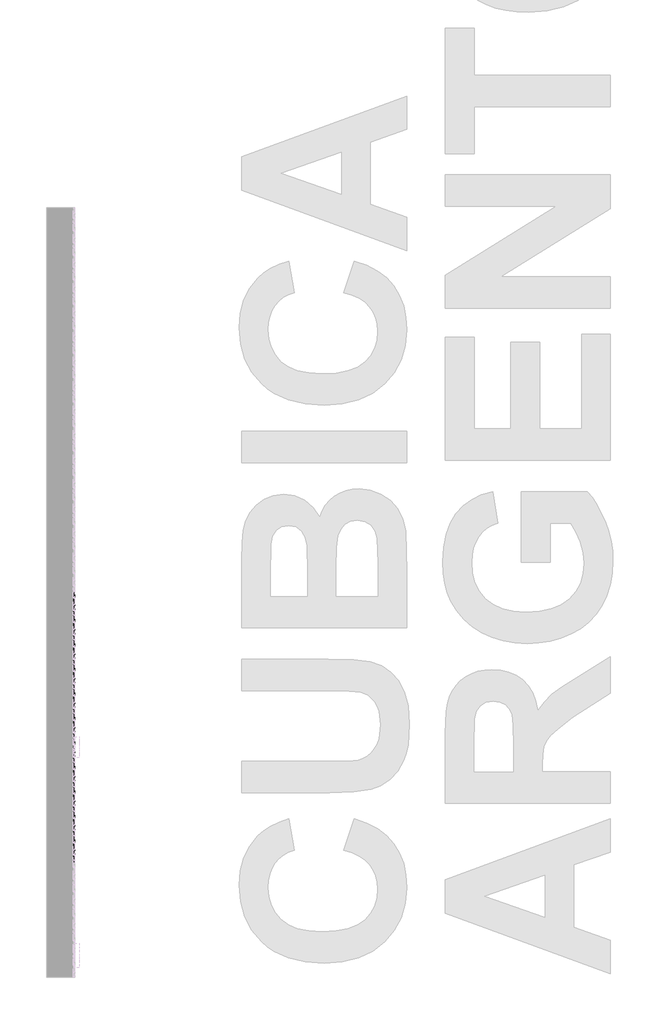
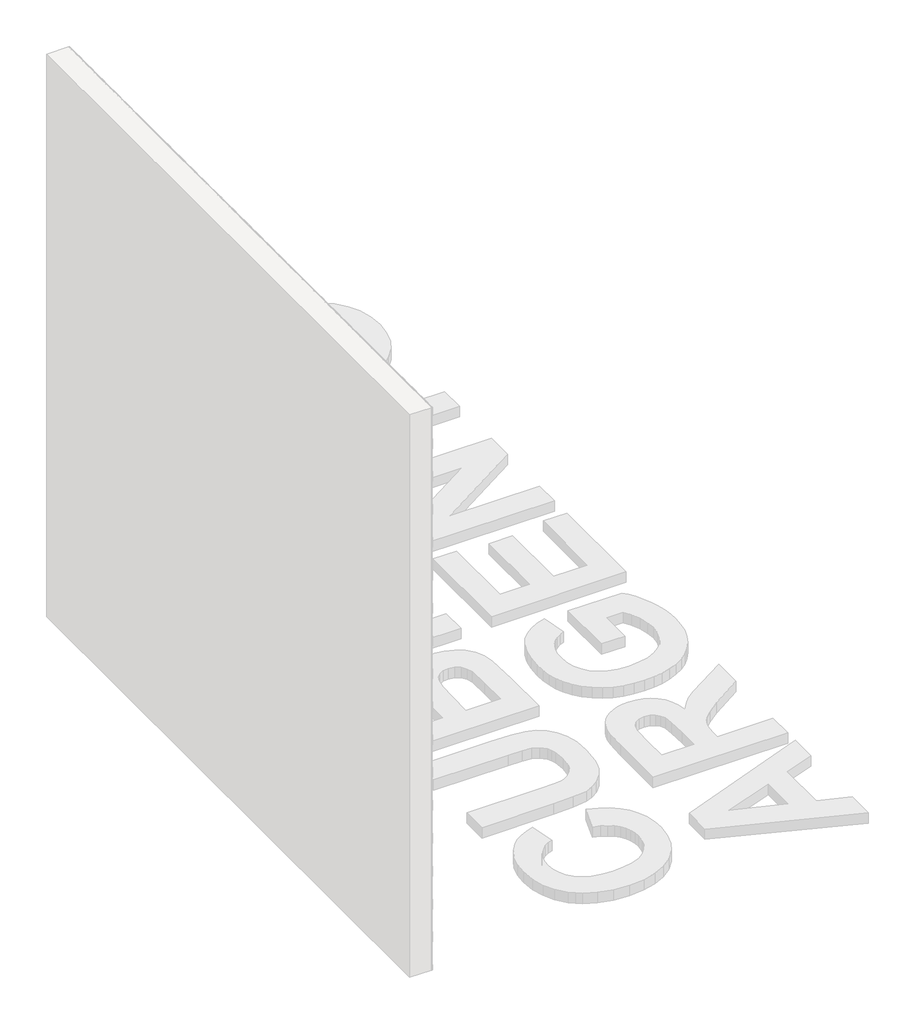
# One storey, part 8 of 121: 145 proxies.
"""IFC4 building model written with IfcOpenShell, lengths in millimetres."""

from ifc_helpers import new_model, si_unit, origin, place, context, project, spatial, transform, mapped, element, save
from components import generic_models_b2b2c5c1, generic_models_9bf73f6f, generic_models_5d175859

model = new_model("IFC4")

# Units and contexts
model_context = context("Model", 3, world=origin())
ifc_project = project(units=[si_unit("LENGTHUNIT", "METRE", prefix="MILLI")], contexts=[model_context])

# Site, building, storey
site = spatial("IfcSite", under=ifc_project)
building = spatial("IfcBuilding", under=site)
storey = spatial("IfcBuildingStorey", under=building, Name="PORTOBELLO - SHOWROOM", Elevation=0.0)

# Proxies
placement = place(None, origin())
generic_models_shape = generic_models_b2b2c5c1(model_context)
element("IfcBuildingElementProxy", 1, Name="PBSHOP - CUBICA ARGENTO 4,8X8,3 : CUBICA ARGENTO - POSIÇÃO 01", ObjectType="PBSHOP - CUBICA ARGENTO 4,8X8,3 : CUBICA ARGENTO - POSIÇÃO 01", at=placement, inside=storey, context=model_context, shape_type="MappedRepresentation", body=[
    mapped(generic_models_shape, transform((150369.5341846, -5858.416639, 1144.507104), x_axis=(0.0, 1.0, 0.0), y_axis=(0.0, 0.0, 1.0), z_axis=(1.0, 0.0, 0.0))),
])
element("IfcBuildingElementProxy", 2, Name="PBSHOP - CUBICA ARGENTO 4,8X8,3 : CUBICA ARGENTO - POSIÇÃO 01", ObjectType="PBSHOP - CUBICA ARGENTO 4,8X8,3 : CUBICA ARGENTO - POSIÇÃO 01", at=placement, inside=storey, context=model_context, shape_type="MappedRepresentation", body=[
    mapped(generic_models_shape, transform((150369.5341846, -5767.5773697, 1144.507104), x_axis=(0.0, 1.0, 0.0), y_axis=(0.0, 0.0, 1.0), z_axis=(1.0, 0.0, 0.0))),
])
element("IfcBuildingElementProxy", 3, Name="PBSHOP - CUBICA ARGENTO 4,8X8,3 : CUBICA ARGENTO - POSIÇÃO 01", ObjectType="PBSHOP - CUBICA ARGENTO 4,8X8,3 : CUBICA ARGENTO - POSIÇÃO 01", at=placement, inside=storey, context=model_context, shape_type="MappedRepresentation", body=[
    mapped(generic_models_shape, transform((150369.5341846, -5676.7381005, 1144.507104), x_axis=(0.0, 1.0, 0.0), y_axis=(0.0, 0.0, 1.0), z_axis=(1.0, 0.0, 0.0))),
])
element("IfcBuildingElementProxy", 4, Name="PBSHOP - CUBICA ARGENTO 4,8X8,3 : CUBICA ARGENTO - POSIÇÃO 01", ObjectType="PBSHOP - CUBICA ARGENTO 4,8X8,3 : CUBICA ARGENTO - POSIÇÃO 01", at=placement, inside=storey, context=model_context, shape_type="MappedRepresentation", body=[
    mapped(generic_models_shape, transform((150369.5341846, -5585.8988312, 1144.507104), x_axis=(0.0, 1.0, 0.0), y_axis=(0.0, 0.0, 1.0), z_axis=(1.0, 0.0, 0.0))),
])
element("IfcBuildingElementProxy", 5, Name="PBSHOP - CUBICA ARGENTO 4,8X8,3 : CUBICA ARGENTO - POSIÇÃO 01", ObjectType="PBSHOP - CUBICA ARGENTO 4,8X8,3 : CUBICA ARGENTO - POSIÇÃO 01", at=placement, inside=storey, context=model_context, shape_type="MappedRepresentation", body=[
    mapped(generic_models_shape, transform((150369.5341846, -5495.059562, 1144.507104), x_axis=(0.0, 1.0, 0.0), y_axis=(0.0, 0.0, 1.0), z_axis=(1.0, 0.0, 0.0))),
])
element("IfcBuildingElementProxy", 6, Name="PBSHOP - CUBICA ARGENTO 4,8X8,3 : CUBICA ARGENTO - POSIÇÃO 01", ObjectType="PBSHOP - CUBICA ARGENTO 4,8X8,3 : CUBICA ARGENTO - POSIÇÃO 01", at=placement, inside=storey, context=model_context, shape_type="MappedRepresentation", body=[
    mapped(generic_models_shape, transform((150369.5341846, -5404.2202927, 1144.507104), x_axis=(0.0, 1.0, 0.0), y_axis=(0.0, 0.0, 1.0), z_axis=(1.0, 0.0, 0.0))),
])
element("IfcBuildingElementProxy", 7, Name="PBSHOP - CUBICA ARGENTO 4,8X8,3 : CUBICA ARGENTO - POSIÇÃO 01", ObjectType="PBSHOP - CUBICA ARGENTO 4,8X8,3 : CUBICA ARGENTO - POSIÇÃO 01", at=placement, inside=storey, context=model_context, shape_type="MappedRepresentation", body=[
    mapped(generic_models_shape, transform((150369.5341846, -5313.3810235, 1144.507104), x_axis=(0.0, 1.0, 0.0), y_axis=(0.0, 0.0, 1.0), z_axis=(1.0, 0.0, 0.0))),
])
element("IfcBuildingElementProxy", 8, Name="PBSHOP - CUBICA ARGENTO 4,8X8,3 : CUBICA ARGENTO - POSIÇÃO 01", ObjectType="PBSHOP - CUBICA ARGENTO 4,8X8,3 : CUBICA ARGENTO - POSIÇÃO 01", at=placement, inside=storey, context=model_context, shape_type="MappedRepresentation", body=[
    mapped(generic_models_shape, transform((150369.5341846, -5222.5417543, 1144.507104), x_axis=(0.0, 1.0, 0.0), y_axis=(0.0, 0.0, 1.0), z_axis=(1.0, 0.0, 0.0))),
])
element("IfcBuildingElementProxy", 9, Name="PBSHOP - CUBICA ARGENTO 4,8X8,3 : CUBICA ARGENTO - POSIÇÃO 01", ObjectType="PBSHOP - CUBICA ARGENTO 4,8X8,3 : CUBICA ARGENTO - POSIÇÃO 01", at=placement, inside=storey, context=model_context, shape_type="MappedRepresentation", body=[
    mapped(generic_models_shape, transform((150369.5341846, -5131.702485, 1144.507104), x_axis=(0.0, 1.0, 0.0), y_axis=(0.0, 0.0, 1.0), z_axis=(1.0, 0.0, 0.0))),
])
element("IfcBuildingElementProxy", 10, Name="PBSHOP - CUBICA ARGENTO 4,8X8,3 : CUBICA ARGENTO - POSIÇÃO 01", ObjectType="PBSHOP - CUBICA ARGENTO 4,8X8,3 : CUBICA ARGENTO - POSIÇÃO 01", at=placement, inside=storey, context=model_context, shape_type="MappedRepresentation", body=[
    mapped(generic_models_shape, transform((150369.5341846, -5040.8632158, 1144.507104), x_axis=(0.0, 1.0, 0.0), y_axis=(0.0, 0.0, 1.0), z_axis=(1.0, 0.0, 0.0))),
])
element("IfcBuildingElementProxy", 11, Name="PBSHOP - CUBICA ARGENTO 4,8X8,3 : CUBICA ARGENTO - POSIÇÃO 01", ObjectType="PBSHOP - CUBICA ARGENTO 4,8X8,3 : CUBICA ARGENTO - POSIÇÃO 01", at=placement, inside=storey, context=model_context, shape_type="MappedRepresentation", body=[
    mapped(generic_models_shape, transform((150369.5341846, -5994.6755428, 1223.4417424), x_axis=(0.0, 1.0, 0.0), y_axis=(0.0, 0.0, 1.0), z_axis=(1.0, 0.0, 0.0))),
])
element("IfcBuildingElementProxy", 12, Name="PBSHOP - CUBICA ARGENTO 4,8X8,3 : CUBICA ARGENTO - POSIÇÃO 01", ObjectType="PBSHOP - CUBICA ARGENTO 4,8X8,3 : CUBICA ARGENTO - POSIÇÃO 01", at=placement, inside=storey, context=model_context, shape_type="MappedRepresentation", body=[
    mapped(generic_models_shape, transform((150369.5341846, -5903.8362736, 1223.4417424), x_axis=(0.0, 1.0, 0.0), y_axis=(0.0, 0.0, 1.0), z_axis=(1.0, 0.0, 0.0))),
])
element("IfcBuildingElementProxy", 13, Name="PBSHOP - CUBICA ARGENTO 4,8X8,3 : CUBICA ARGENTO - POSIÇÃO 01", ObjectType="PBSHOP - CUBICA ARGENTO 4,8X8,3 : CUBICA ARGENTO - POSIÇÃO 01", at=placement, inside=storey, context=model_context, shape_type="MappedRepresentation", body=[
    mapped(generic_models_shape, transform((150369.5341846, -5812.9970043, 1223.4417424), x_axis=(0.0, 1.0, 0.0), y_axis=(0.0, 0.0, 1.0), z_axis=(1.0, 0.0, 0.0))),
])
element("IfcBuildingElementProxy", 14, Name="PBSHOP - CUBICA ARGENTO 4,8X8,3 : CUBICA ARGENTO - POSIÇÃO 01", ObjectType="PBSHOP - CUBICA ARGENTO 4,8X8,3 : CUBICA ARGENTO - POSIÇÃO 01", at=placement, inside=storey, context=model_context, shape_type="MappedRepresentation", body=[
    mapped(generic_models_shape, transform((150369.5341846, -5722.1577351, 1223.4417424), x_axis=(0.0, 1.0, 0.0), y_axis=(0.0, 0.0, 1.0), z_axis=(1.0, 0.0, 0.0))),
])
element("IfcBuildingElementProxy", 15, Name="PBSHOP - CUBICA ARGENTO 4,8X8,3 : CUBICA ARGENTO - POSIÇÃO 01", ObjectType="PBSHOP - CUBICA ARGENTO 4,8X8,3 : CUBICA ARGENTO - POSIÇÃO 01", at=placement, inside=storey, context=model_context, shape_type="MappedRepresentation", body=[
    mapped(generic_models_shape, transform((150369.5341846, -5631.3184659, 1223.4417424), x_axis=(0.0, 1.0, 0.0), y_axis=(0.0, 0.0, 1.0), z_axis=(1.0, 0.0, 0.0))),
])
element("IfcBuildingElementProxy", 16, Name="PBSHOP - CUBICA ARGENTO 4,8X8,3 : CUBICA ARGENTO - POSIÇÃO 01", ObjectType="PBSHOP - CUBICA ARGENTO 4,8X8,3 : CUBICA ARGENTO - POSIÇÃO 01", at=placement, inside=storey, context=model_context, shape_type="MappedRepresentation", body=[
    mapped(generic_models_shape, transform((150369.5341846, -5540.4791966, 1223.4417424), x_axis=(0.0, 1.0, 0.0), y_axis=(0.0, 0.0, 1.0), z_axis=(1.0, 0.0, 0.0))),
])
element("IfcBuildingElementProxy", 17, Name="PBSHOP - CUBICA ARGENTO 4,8X8,3 : CUBICA ARGENTO - POSIÇÃO 01", ObjectType="PBSHOP - CUBICA ARGENTO 4,8X8,3 : CUBICA ARGENTO - POSIÇÃO 01", at=placement, inside=storey, context=model_context, shape_type="MappedRepresentation", body=[
    mapped(generic_models_shape, transform((150369.5341846, -5449.6399274, 1223.4417424), x_axis=(0.0, 1.0, 0.0), y_axis=(0.0, 0.0, 1.0), z_axis=(1.0, 0.0, 0.0))),
])
element("IfcBuildingElementProxy", 18, Name="PBSHOP - CUBICA ARGENTO 4,8X8,3 : CUBICA ARGENTO - POSIÇÃO 01", ObjectType="PBSHOP - CUBICA ARGENTO 4,8X8,3 : CUBICA ARGENTO - POSIÇÃO 01", at=placement, inside=storey, context=model_context, shape_type="MappedRepresentation", body=[
    mapped(generic_models_shape, transform((150369.5341846, -5358.8006581, 1223.4417424), x_axis=(0.0, 1.0, 0.0), y_axis=(0.0, 0.0, 1.0), z_axis=(1.0, 0.0, 0.0))),
])
element("IfcBuildingElementProxy", 19, Name="PBSHOP - CUBICA ARGENTO 4,8X8,3 : CUBICA ARGENTO - POSIÇÃO 01", ObjectType="PBSHOP - CUBICA ARGENTO 4,8X8,3 : CUBICA ARGENTO - POSIÇÃO 01", at=placement, inside=storey, context=model_context, shape_type="MappedRepresentation", body=[
    mapped(generic_models_shape, transform((150369.5341846, -5267.9613889, 1223.4417424), x_axis=(0.0, 1.0, 0.0), y_axis=(0.0, 0.0, 1.0), z_axis=(1.0, 0.0, 0.0))),
])
element("IfcBuildingElementProxy", 20, Name="PBSHOP - CUBICA ARGENTO 4,8X8,3 : CUBICA ARGENTO - POSIÇÃO 01", ObjectType="PBSHOP - CUBICA ARGENTO 4,8X8,3 : CUBICA ARGENTO - POSIÇÃO 01", at=placement, inside=storey, context=model_context, shape_type="MappedRepresentation", body=[
    mapped(generic_models_shape, transform((150369.5341846, -5177.1221196, 1223.4417424), x_axis=(0.0, 1.0, 0.0), y_axis=(0.0, 0.0, 1.0), z_axis=(1.0, 0.0, 0.0))),
])
element("IfcBuildingElementProxy", 21, Name="PBSHOP - CUBICA ARGENTO 4,8X8,3 : CUBICA ARGENTO - POSIÇÃO 01", ObjectType="PBSHOP - CUBICA ARGENTO 4,8X8,3 : CUBICA ARGENTO - POSIÇÃO 01", at=placement, inside=storey, context=model_context, shape_type="MappedRepresentation", body=[
    mapped(generic_models_shape, transform((150369.5341846, -5086.2828504, 1223.4417424), x_axis=(0.0, 1.0, 0.0), y_axis=(0.0, 0.0, 1.0), z_axis=(1.0, 0.0, 0.0))),
])
element("IfcBuildingElementProxy", 22, Name="PBSHOP - CUBICA ARGENTO 4,8X8,3 : CUBICA ARGENTO - POSIÇÃO 01", ObjectType="PBSHOP - CUBICA ARGENTO 4,8X8,3 : CUBICA ARGENTO - POSIÇÃO 01", at=placement, inside=storey, context=model_context, shape_type="MappedRepresentation", body=[
    mapped(generic_models_shape, transform((150369.5341846, -5949.2559082, 1302.3763808), x_axis=(0.0, 1.0, 0.0), y_axis=(0.0, 0.0, 1.0), z_axis=(1.0, 0.0, 0.0))),
])
element("IfcBuildingElementProxy", 23, Name="PBSHOP - CUBICA ARGENTO 4,8X8,3 : CUBICA ARGENTO - POSIÇÃO 01", ObjectType="PBSHOP - CUBICA ARGENTO 4,8X8,3 : CUBICA ARGENTO - POSIÇÃO 01", at=placement, inside=storey, context=model_context, shape_type="MappedRepresentation", body=[
    mapped(generic_models_shape, transform((150369.5341846, -5858.416639, 1302.3763808), x_axis=(0.0, 1.0, 0.0), y_axis=(0.0, 0.0, 1.0), z_axis=(1.0, 0.0, 0.0))),
])
element("IfcBuildingElementProxy", 24, Name="PBSHOP - CUBICA ARGENTO 4,8X8,3 : CUBICA ARGENTO - POSIÇÃO 01", ObjectType="PBSHOP - CUBICA ARGENTO 4,8X8,3 : CUBICA ARGENTO - POSIÇÃO 01", at=placement, inside=storey, context=model_context, shape_type="MappedRepresentation", body=[
    mapped(generic_models_shape, transform((150369.5341846, -5767.5773697, 1302.3763808), x_axis=(0.0, 1.0, 0.0), y_axis=(0.0, 0.0, 1.0), z_axis=(1.0, 0.0, 0.0))),
])
element("IfcBuildingElementProxy", 25, Name="PBSHOP - CUBICA ARGENTO 4,8X8,3 : CUBICA ARGENTO - POSIÇÃO 01", ObjectType="PBSHOP - CUBICA ARGENTO 4,8X8,3 : CUBICA ARGENTO - POSIÇÃO 01", at=placement, inside=storey, context=model_context, shape_type="MappedRepresentation", body=[
    mapped(generic_models_shape, transform((150369.5341846, -5676.7381005, 1302.3763808), x_axis=(0.0, 1.0, 0.0), y_axis=(0.0, 0.0, 1.0), z_axis=(1.0, 0.0, 0.0))),
])
element("IfcBuildingElementProxy", 26, Name="PBSHOP - CUBICA ARGENTO 4,8X8,3 : CUBICA ARGENTO - POSIÇÃO 01", ObjectType="PBSHOP - CUBICA ARGENTO 4,8X8,3 : CUBICA ARGENTO - POSIÇÃO 01", at=placement, inside=storey, context=model_context, shape_type="MappedRepresentation", body=[
    mapped(generic_models_shape, transform((150369.5341846, -5585.8988312, 1302.3763808), x_axis=(0.0, 1.0, 0.0), y_axis=(0.0, 0.0, 1.0), z_axis=(1.0, 0.0, 0.0))),
])
element("IfcBuildingElementProxy", 27, Name="PBSHOP - CUBICA ARGENTO 4,8X8,3 : CUBICA ARGENTO - POSIÇÃO 01", ObjectType="PBSHOP - CUBICA ARGENTO 4,8X8,3 : CUBICA ARGENTO - POSIÇÃO 01", at=placement, inside=storey, context=model_context, shape_type="MappedRepresentation", body=[
    mapped(generic_models_shape, transform((150369.5341846, -5495.059562, 1302.3763808), x_axis=(0.0, 1.0, 0.0), y_axis=(0.0, 0.0, 1.0), z_axis=(1.0, 0.0, 0.0))),
])
element("IfcBuildingElementProxy", 28, Name="PBSHOP - CUBICA ARGENTO 4,8X8,3 : CUBICA ARGENTO - POSIÇÃO 01", ObjectType="PBSHOP - CUBICA ARGENTO 4,8X8,3 : CUBICA ARGENTO - POSIÇÃO 01", at=placement, inside=storey, context=model_context, shape_type="MappedRepresentation", body=[
    mapped(generic_models_shape, transform((150369.5341846, -5404.2202927, 1302.3763808), x_axis=(0.0, 1.0, 0.0), y_axis=(0.0, 0.0, 1.0), z_axis=(1.0, 0.0, 0.0))),
])
element("IfcBuildingElementProxy", 29, Name="PBSHOP - CUBICA ARGENTO 4,8X8,3 : CUBICA ARGENTO - POSIÇÃO 01", ObjectType="PBSHOP - CUBICA ARGENTO 4,8X8,3 : CUBICA ARGENTO - POSIÇÃO 01", at=placement, inside=storey, context=model_context, shape_type="MappedRepresentation", body=[
    mapped(generic_models_shape, transform((150369.5341846, -5313.3810235, 1302.3763808), x_axis=(0.0, 1.0, 0.0), y_axis=(0.0, 0.0, 1.0), z_axis=(1.0, 0.0, 0.0))),
])
element("IfcBuildingElementProxy", 30, Name="PBSHOP - CUBICA ARGENTO 4,8X8,3 : CUBICA ARGENTO - POSIÇÃO 01", ObjectType="PBSHOP - CUBICA ARGENTO 4,8X8,3 : CUBICA ARGENTO - POSIÇÃO 01", at=placement, inside=storey, context=model_context, shape_type="MappedRepresentation", body=[
    mapped(generic_models_shape, transform((150369.5341846, -5222.5417543, 1302.3763808), x_axis=(0.0, 1.0, 0.0), y_axis=(0.0, 0.0, 1.0), z_axis=(1.0, 0.0, 0.0))),
])
element("IfcBuildingElementProxy", 31, Name="PBSHOP - CUBICA ARGENTO 4,8X8,3 : CUBICA ARGENTO - POSIÇÃO 01", ObjectType="PBSHOP - CUBICA ARGENTO 4,8X8,3 : CUBICA ARGENTO - POSIÇÃO 01", at=placement, inside=storey, context=model_context, shape_type="MappedRepresentation", body=[
    mapped(generic_models_shape, transform((150369.5341846, -5131.702485, 1302.3763808), x_axis=(0.0, 1.0, 0.0), y_axis=(0.0, 0.0, 1.0), z_axis=(1.0, 0.0, 0.0))),
])
element("IfcBuildingElementProxy", 32, Name="PBSHOP - CUBICA ARGENTO 4,8X8,3 : CUBICA ARGENTO - POSIÇÃO 01", ObjectType="PBSHOP - CUBICA ARGENTO 4,8X8,3 : CUBICA ARGENTO - POSIÇÃO 01", at=placement, inside=storey, context=model_context, shape_type="MappedRepresentation", body=[
    mapped(generic_models_shape, transform((150369.5341846, -5040.8632158, 1302.3763808), x_axis=(0.0, 1.0, 0.0), y_axis=(0.0, 0.0, 1.0), z_axis=(1.0, 0.0, 0.0))),
])
element("IfcBuildingElementProxy", 33, Name="PBSHOP - CUBICA ARGENTO 4,8X8,3 : CUBICA ARGENTO - POSIÇÃO 01", ObjectType="PBSHOP - CUBICA ARGENTO 4,8X8,3 : CUBICA ARGENTO - POSIÇÃO 01", at=placement, inside=storey, context=model_context, shape_type="MappedRepresentation", body=[
    mapped(generic_models_shape, transform((150369.5341846, -5994.6755428, 1381.3110192), x_axis=(0.0, 1.0, 0.0), y_axis=(0.0, 0.0, 1.0), z_axis=(1.0, 0.0, 0.0))),
])
element("IfcBuildingElementProxy", 34, Name="PBSHOP - CUBICA ARGENTO 4,8X8,3 : CUBICA ARGENTO - POSIÇÃO 01", ObjectType="PBSHOP - CUBICA ARGENTO 4,8X8,3 : CUBICA ARGENTO - POSIÇÃO 01", at=placement, inside=storey, context=model_context, shape_type="MappedRepresentation", body=[
    mapped(generic_models_shape, transform((150369.5341846, -5903.8362736, 1381.3110192), x_axis=(0.0, 1.0, 0.0), y_axis=(0.0, 0.0, 1.0), z_axis=(1.0, 0.0, 0.0))),
])
element("IfcBuildingElementProxy", 35, Name="PBSHOP - CUBICA ARGENTO 4,8X8,3 : CUBICA ARGENTO - POSIÇÃO 01", ObjectType="PBSHOP - CUBICA ARGENTO 4,8X8,3 : CUBICA ARGENTO - POSIÇÃO 01", at=placement, inside=storey, context=model_context, shape_type="MappedRepresentation", body=[
    mapped(generic_models_shape, transform((150369.5341846, -5812.9970043, 1381.3110192), x_axis=(0.0, 1.0, 0.0), y_axis=(0.0, 0.0, 1.0), z_axis=(1.0, 0.0, 0.0))),
])
element("IfcBuildingElementProxy", 36, Name="PBSHOP - CUBICA ARGENTO 4,8X8,3 : CUBICA ARGENTO - POSIÇÃO 01", ObjectType="PBSHOP - CUBICA ARGENTO 4,8X8,3 : CUBICA ARGENTO - POSIÇÃO 01", at=placement, inside=storey, context=model_context, shape_type="MappedRepresentation", body=[
    mapped(generic_models_shape, transform((150369.5341846, -5722.1577351, 1381.3110192), x_axis=(0.0, 1.0, 0.0), y_axis=(0.0, 0.0, 1.0), z_axis=(1.0, 0.0, 0.0))),
])
element("IfcBuildingElementProxy", 37, Name="PBSHOP - CUBICA ARGENTO 4,8X8,3 : CUBICA ARGENTO - POSIÇÃO 01", ObjectType="PBSHOP - CUBICA ARGENTO 4,8X8,3 : CUBICA ARGENTO - POSIÇÃO 01", at=placement, inside=storey, context=model_context, shape_type="MappedRepresentation", body=[
    mapped(generic_models_shape, transform((150369.5341846, -5631.3184659, 1381.3110192), x_axis=(0.0, 1.0, 0.0), y_axis=(0.0, 0.0, 1.0), z_axis=(1.0, 0.0, 0.0))),
])
element("IfcBuildingElementProxy", 38, Name="PBSHOP - CUBICA ARGENTO 4,8X8,3 : CUBICA ARGENTO - POSIÇÃO 01", ObjectType="PBSHOP - CUBICA ARGENTO 4,8X8,3 : CUBICA ARGENTO - POSIÇÃO 01", at=placement, inside=storey, context=model_context, shape_type="MappedRepresentation", body=[
    mapped(generic_models_shape, transform((150369.5341846, -5540.4791966, 1381.3110192), x_axis=(0.0, 1.0, 0.0), y_axis=(0.0, 0.0, 1.0), z_axis=(1.0, 0.0, 0.0))),
])
element("IfcBuildingElementProxy", 39, Name="PBSHOP - CUBICA ARGENTO 4,8X8,3 : CUBICA ARGENTO - POSIÇÃO 01", ObjectType="PBSHOP - CUBICA ARGENTO 4,8X8,3 : CUBICA ARGENTO - POSIÇÃO 01", at=placement, inside=storey, context=model_context, shape_type="MappedRepresentation", body=[
    mapped(generic_models_shape, transform((150369.5341846, -5449.6399274, 1381.3110192), x_axis=(0.0, 1.0, 0.0), y_axis=(0.0, 0.0, 1.0), z_axis=(1.0, 0.0, 0.0))),
])
element("IfcBuildingElementProxy", 40, Name="PBSHOP - CUBICA ARGENTO 4,8X8,3 : CUBICA ARGENTO - POSIÇÃO 01", ObjectType="PBSHOP - CUBICA ARGENTO 4,8X8,3 : CUBICA ARGENTO - POSIÇÃO 01", at=placement, inside=storey, context=model_context, shape_type="MappedRepresentation", body=[
    mapped(generic_models_shape, transform((150369.5341846, -5358.8006581, 1381.3110192), x_axis=(0.0, 1.0, 0.0), y_axis=(0.0, 0.0, 1.0), z_axis=(1.0, 0.0, 0.0))),
])
element("IfcBuildingElementProxy", 41, Name="PBSHOP - CUBICA ARGENTO 4,8X8,3 : CUBICA ARGENTO - POSIÇÃO 01", ObjectType="PBSHOP - CUBICA ARGENTO 4,8X8,3 : CUBICA ARGENTO - POSIÇÃO 01", at=placement, inside=storey, context=model_context, shape_type="MappedRepresentation", body=[
    mapped(generic_models_shape, transform((150369.5341846, -5267.9613889, 1381.3110192), x_axis=(0.0, 1.0, 0.0), y_axis=(0.0, 0.0, 1.0), z_axis=(1.0, 0.0, 0.0))),
])
element("IfcBuildingElementProxy", 42, Name="PBSHOP - CUBICA ARGENTO 4,8X8,3 : CUBICA ARGENTO - POSIÇÃO 01", ObjectType="PBSHOP - CUBICA ARGENTO 4,8X8,3 : CUBICA ARGENTO - POSIÇÃO 01", at=placement, inside=storey, context=model_context, shape_type="MappedRepresentation", body=[
    mapped(generic_models_shape, transform((150369.5341846, -5177.1221196, 1381.3110192), x_axis=(0.0, 1.0, 0.0), y_axis=(0.0, 0.0, 1.0), z_axis=(1.0, 0.0, 0.0))),
])
element("IfcBuildingElementProxy", 43, Name="PBSHOP - CUBICA ARGENTO 4,8X8,3 : CUBICA ARGENTO - POSIÇÃO 01", ObjectType="PBSHOP - CUBICA ARGENTO 4,8X8,3 : CUBICA ARGENTO - POSIÇÃO 01", at=placement, inside=storey, context=model_context, shape_type="MappedRepresentation", body=[
    mapped(generic_models_shape, transform((150369.5341846, -5086.2828504, 1381.3110192), x_axis=(0.0, 1.0, 0.0), y_axis=(0.0, 0.0, 1.0), z_axis=(1.0, 0.0, 0.0))),
])
element("IfcBuildingElementProxy", 44, Name="PBSHOP - CUBICA ARGENTO 4,8X8,3 : CUBICA ARGENTO - POSIÇÃO 01", ObjectType="PBSHOP - CUBICA ARGENTO 4,8X8,3 : CUBICA ARGENTO - POSIÇÃO 01", at=placement, inside=storey, context=model_context, shape_type="MappedRepresentation", body=[
    mapped(generic_models_shape, transform((150369.5341846, -5949.2559082, 1460.2456575), x_axis=(0.0, 1.0, 0.0), y_axis=(0.0, 0.0, 1.0), z_axis=(1.0, 0.0, 0.0))),
])
element("IfcBuildingElementProxy", 45, Name="PBSHOP - CUBICA ARGENTO 4,8X8,3 : CUBICA ARGENTO - POSIÇÃO 01", ObjectType="PBSHOP - CUBICA ARGENTO 4,8X8,3 : CUBICA ARGENTO - POSIÇÃO 01", at=placement, inside=storey, context=model_context, shape_type="MappedRepresentation", body=[
    mapped(generic_models_shape, transform((150369.5341846, -5858.416639, 1460.2456575), x_axis=(0.0, 1.0, 0.0), y_axis=(0.0, 0.0, 1.0), z_axis=(1.0, 0.0, 0.0))),
])
element("IfcBuildingElementProxy", 46, Name="PBSHOP - CUBICA ARGENTO 4,8X8,3 : CUBICA ARGENTO - POSIÇÃO 01", ObjectType="PBSHOP - CUBICA ARGENTO 4,8X8,3 : CUBICA ARGENTO - POSIÇÃO 01", at=placement, inside=storey, context=model_context, shape_type="MappedRepresentation", body=[
    mapped(generic_models_shape, transform((150369.5341846, -5767.5773697, 1460.2456575), x_axis=(0.0, 1.0, 0.0), y_axis=(0.0, 0.0, 1.0), z_axis=(1.0, 0.0, 0.0))),
])
element("IfcBuildingElementProxy", 47, Name="PBSHOP - CUBICA ARGENTO 4,8X8,3 : CUBICA ARGENTO - POSIÇÃO 01", ObjectType="PBSHOP - CUBICA ARGENTO 4,8X8,3 : CUBICA ARGENTO - POSIÇÃO 01", at=placement, inside=storey, context=model_context, shape_type="MappedRepresentation", body=[
    mapped(generic_models_shape, transform((150369.5341846, -5676.7381005, 1460.2456575), x_axis=(0.0, 1.0, 0.0), y_axis=(0.0, 0.0, 1.0), z_axis=(1.0, 0.0, 0.0))),
])
element("IfcBuildingElementProxy", 48, Name="PBSHOP - CUBICA ARGENTO 4,8X8,3 : CUBICA ARGENTO - POSIÇÃO 01", ObjectType="PBSHOP - CUBICA ARGENTO 4,8X8,3 : CUBICA ARGENTO - POSIÇÃO 01", at=placement, inside=storey, context=model_context, shape_type="MappedRepresentation", body=[
    mapped(generic_models_shape, transform((150369.5341846, -5585.8988312, 1460.2456575), x_axis=(0.0, 1.0, 0.0), y_axis=(0.0, 0.0, 1.0), z_axis=(1.0, 0.0, 0.0))),
])
element("IfcBuildingElementProxy", 49, Name="PBSHOP - CUBICA ARGENTO 4,8X8,3 : CUBICA ARGENTO - POSIÇÃO 01", ObjectType="PBSHOP - CUBICA ARGENTO 4,8X8,3 : CUBICA ARGENTO - POSIÇÃO 01", at=placement, inside=storey, context=model_context, shape_type="MappedRepresentation", body=[
    mapped(generic_models_shape, transform((150369.5341846, -5495.059562, 1460.2456575), x_axis=(0.0, 1.0, 0.0), y_axis=(0.0, 0.0, 1.0), z_axis=(1.0, 0.0, 0.0))),
])
element("IfcBuildingElementProxy", 50, Name="PBSHOP - CUBICA ARGENTO 4,8X8,3 : CUBICA ARGENTO - POSIÇÃO 01", ObjectType="PBSHOP - CUBICA ARGENTO 4,8X8,3 : CUBICA ARGENTO - POSIÇÃO 01", at=placement, inside=storey, context=model_context, shape_type="MappedRepresentation", body=[
    mapped(generic_models_shape, transform((150369.5341846, -5404.2202927, 1460.2456575), x_axis=(0.0, 1.0, 0.0), y_axis=(0.0, 0.0, 1.0), z_axis=(1.0, 0.0, 0.0))),
])
generic_models_2_shape = generic_models_9bf73f6f(model_context)
element("IfcBuildingElementProxy", 51, Name="PBSHOP - CUBICA ARGENTO 4,8X8,3 : CUBICA ARGENTO - POSIÇÃO 03", ObjectType="PBSHOP - CUBICA ARGENTO 4,8X8,3 : CUBICA ARGENTO - POSIÇÃO 03", at=placement, inside=storey, context=model_context, shape_type="MappedRepresentation", body=[
    mapped(generic_models_2_shape, transform((150369.5341846, -5971.9635664, 1104.9985744), x_axis=(0.0, 1.0, 0.0), y_axis=(0.0, 0.0, 1.0), z_axis=(1.0, 0.0, 0.0))),
])
element("IfcBuildingElementProxy", 52, Name="PBSHOP - CUBICA ARGENTO 4,8X8,3 : CUBICA ARGENTO - POSIÇÃO 03", ObjectType="PBSHOP - CUBICA ARGENTO 4,8X8,3 : CUBICA ARGENTO - POSIÇÃO 03", at=placement, inside=storey, context=model_context, shape_type="MappedRepresentation", body=[
    mapped(generic_models_2_shape, transform((150369.5341846, -5881.1242971, 1104.9985744), x_axis=(0.0, 1.0, 0.0), y_axis=(0.0, 0.0, 1.0), z_axis=(1.0, 0.0, 0.0))),
])
element("IfcBuildingElementProxy", 53, Name="PBSHOP - CUBICA ARGENTO 4,8X8,3 : CUBICA ARGENTO - POSIÇÃO 03", ObjectType="PBSHOP - CUBICA ARGENTO 4,8X8,3 : CUBICA ARGENTO - POSIÇÃO 03", at=placement, inside=storey, context=model_context, shape_type="MappedRepresentation", body=[
    mapped(generic_models_2_shape, transform((150369.5341846, -5790.2850279, 1104.9985744), x_axis=(0.0, 1.0, 0.0), y_axis=(0.0, 0.0, 1.0), z_axis=(1.0, 0.0, 0.0))),
])
element("IfcBuildingElementProxy", 54, Name="PBSHOP - CUBICA ARGENTO 4,8X8,3 : CUBICA ARGENTO - POSIÇÃO 03", ObjectType="PBSHOP - CUBICA ARGENTO 4,8X8,3 : CUBICA ARGENTO - POSIÇÃO 03", at=placement, inside=storey, context=model_context, shape_type="MappedRepresentation", body=[
    mapped(generic_models_2_shape, transform((150369.5341846, -5699.4457586, 1104.9985744), x_axis=(0.0, 1.0, 0.0), y_axis=(0.0, 0.0, 1.0), z_axis=(1.0, 0.0, 0.0))),
])
element("IfcBuildingElementProxy", 55, Name="PBSHOP - CUBICA ARGENTO 4,8X8,3 : CUBICA ARGENTO - POSIÇÃO 03", ObjectType="PBSHOP - CUBICA ARGENTO 4,8X8,3 : CUBICA ARGENTO - POSIÇÃO 03", at=placement, inside=storey, context=model_context, shape_type="MappedRepresentation", body=[
    mapped(generic_models_2_shape, transform((150369.5341846, -5608.6064894, 1104.9985744), x_axis=(0.0, 1.0, 0.0), y_axis=(0.0, 0.0, 1.0), z_axis=(1.0, 0.0, 0.0))),
])
element("IfcBuildingElementProxy", 56, Name="PBSHOP - CUBICA ARGENTO 4,8X8,3 : CUBICA ARGENTO - POSIÇÃO 03", ObjectType="PBSHOP - CUBICA ARGENTO 4,8X8,3 : CUBICA ARGENTO - POSIÇÃO 03", at=placement, inside=storey, context=model_context, shape_type="MappedRepresentation", body=[
    mapped(generic_models_2_shape, transform((150369.5341846, -5517.7672201, 1104.9985744), x_axis=(0.0, 1.0, 0.0), y_axis=(0.0, 0.0, 1.0), z_axis=(1.0, 0.0, 0.0))),
])
element("IfcBuildingElementProxy", 57, Name="PBSHOP - CUBICA ARGENTO 4,8X8,3 : CUBICA ARGENTO - POSIÇÃO 03", ObjectType="PBSHOP - CUBICA ARGENTO 4,8X8,3 : CUBICA ARGENTO - POSIÇÃO 03", at=placement, inside=storey, context=model_context, shape_type="MappedRepresentation", body=[
    mapped(generic_models_2_shape, transform((150369.5341846, -5426.9279509, 1104.9985744), x_axis=(0.0, 1.0, 0.0), y_axis=(0.0, 0.0, 1.0), z_axis=(1.0, 0.0, 0.0))),
])
element("IfcBuildingElementProxy", 58, Name="PBSHOP - CUBICA ARGENTO 4,8X8,3 : CUBICA ARGENTO - POSIÇÃO 03", ObjectType="PBSHOP - CUBICA ARGENTO 4,8X8,3 : CUBICA ARGENTO - POSIÇÃO 03", at=placement, inside=storey, context=model_context, shape_type="MappedRepresentation", body=[
    mapped(generic_models_2_shape, transform((150369.5341846, -5336.0886816, 1104.9985744), x_axis=(0.0, 1.0, 0.0), y_axis=(0.0, 0.0, 1.0), z_axis=(1.0, 0.0, 0.0))),
])
element("IfcBuildingElementProxy", 59, Name="PBSHOP - CUBICA ARGENTO 4,8X8,3 : CUBICA ARGENTO - POSIÇÃO 03", ObjectType="PBSHOP - CUBICA ARGENTO 4,8X8,3 : CUBICA ARGENTO - POSIÇÃO 03", at=placement, inside=storey, context=model_context, shape_type="MappedRepresentation", body=[
    mapped(generic_models_2_shape, transform((150369.5341846, -5245.2494124, 1104.9985744), x_axis=(0.0, 1.0, 0.0), y_axis=(0.0, 0.0, 1.0), z_axis=(1.0, 0.0, 0.0))),
])
element("IfcBuildingElementProxy", 60, Name="PBSHOP - CUBICA ARGENTO 4,8X8,3 : CUBICA ARGENTO - POSIÇÃO 03", ObjectType="PBSHOP - CUBICA ARGENTO 4,8X8,3 : CUBICA ARGENTO - POSIÇÃO 03", at=placement, inside=storey, context=model_context, shape_type="MappedRepresentation", body=[
    mapped(generic_models_2_shape, transform((150369.5341846, -5154.4101432, 1104.9985744), x_axis=(0.0, 1.0, 0.0), y_axis=(0.0, 0.0, 1.0), z_axis=(1.0, 0.0, 0.0))),
])
element("IfcBuildingElementProxy", 61, Name="PBSHOP - CUBICA ARGENTO 4,8X8,3 : CUBICA ARGENTO - POSIÇÃO 03", ObjectType="PBSHOP - CUBICA ARGENTO 4,8X8,3 : CUBICA ARGENTO - POSIÇÃO 03", at=placement, inside=storey, context=model_context, shape_type="MappedRepresentation", body=[
    mapped(generic_models_2_shape, transform((150369.5341846, -5063.5708739, 1104.9985744), x_axis=(0.0, 1.0, 0.0), y_axis=(0.0, 0.0, 1.0), z_axis=(1.0, 0.0, 0.0))),
])
element("IfcBuildingElementProxy", 62, Name="PBSHOP - CUBICA ARGENTO 4,8X8,3 : CUBICA ARGENTO - POSIÇÃO 03", ObjectType="PBSHOP - CUBICA ARGENTO 4,8X8,3 : CUBICA ARGENTO - POSIÇÃO 03", at=placement, inside=storey, context=model_context, shape_type="MappedRepresentation", body=[
    mapped(generic_models_2_shape, transform((150369.5341846, -5926.5439317, 1183.9332128), x_axis=(0.0, 1.0, 0.0), y_axis=(0.0, 0.0, 1.0), z_axis=(1.0, 0.0, 0.0))),
])
element("IfcBuildingElementProxy", 63, Name="PBSHOP - CUBICA ARGENTO 4,8X8,3 : CUBICA ARGENTO - POSIÇÃO 03", ObjectType="PBSHOP - CUBICA ARGENTO 4,8X8,3 : CUBICA ARGENTO - POSIÇÃO 03", at=placement, inside=storey, context=model_context, shape_type="MappedRepresentation", body=[
    mapped(generic_models_2_shape, transform((150369.5341846, -5835.7046625, 1183.9332128), x_axis=(0.0, 1.0, 0.0), y_axis=(0.0, 0.0, 1.0), z_axis=(1.0, 0.0, 0.0))),
])
element("IfcBuildingElementProxy", 64, Name="PBSHOP - CUBICA ARGENTO 4,8X8,3 : CUBICA ARGENTO - POSIÇÃO 03", ObjectType="PBSHOP - CUBICA ARGENTO 4,8X8,3 : CUBICA ARGENTO - POSIÇÃO 03", at=placement, inside=storey, context=model_context, shape_type="MappedRepresentation", body=[
    mapped(generic_models_2_shape, transform((150369.5341846, -5744.8653932, 1183.9332128), x_axis=(0.0, 1.0, 0.0), y_axis=(0.0, 0.0, 1.0), z_axis=(1.0, 0.0, 0.0))),
])
element("IfcBuildingElementProxy", 65, Name="PBSHOP - CUBICA ARGENTO 4,8X8,3 : CUBICA ARGENTO - POSIÇÃO 03", ObjectType="PBSHOP - CUBICA ARGENTO 4,8X8,3 : CUBICA ARGENTO - POSIÇÃO 03", at=placement, inside=storey, context=model_context, shape_type="MappedRepresentation", body=[
    mapped(generic_models_2_shape, transform((150369.5341846, -5654.026124, 1183.9332128), x_axis=(0.0, 1.0, 0.0), y_axis=(0.0, 0.0, 1.0), z_axis=(1.0, 0.0, 0.0))),
])
element("IfcBuildingElementProxy", 66, Name="PBSHOP - CUBICA ARGENTO 4,8X8,3 : CUBICA ARGENTO - POSIÇÃO 03", ObjectType="PBSHOP - CUBICA ARGENTO 4,8X8,3 : CUBICA ARGENTO - POSIÇÃO 03", at=placement, inside=storey, context=model_context, shape_type="MappedRepresentation", body=[
    mapped(generic_models_2_shape, transform((150369.5341846, -5563.1868548, 1183.9332128), x_axis=(0.0, 1.0, 0.0), y_axis=(0.0, 0.0, 1.0), z_axis=(1.0, 0.0, 0.0))),
])
element("IfcBuildingElementProxy", 67, Name="PBSHOP - CUBICA ARGENTO 4,8X8,3 : CUBICA ARGENTO - POSIÇÃO 03", ObjectType="PBSHOP - CUBICA ARGENTO 4,8X8,3 : CUBICA ARGENTO - POSIÇÃO 03", at=placement, inside=storey, context=model_context, shape_type="MappedRepresentation", body=[
    mapped(generic_models_2_shape, transform((150369.5341846, -5472.3475855, 1183.9332128), x_axis=(0.0, 1.0, 0.0), y_axis=(0.0, 0.0, 1.0), z_axis=(1.0, 0.0, 0.0))),
])
element("IfcBuildingElementProxy", 68, Name="PBSHOP - CUBICA ARGENTO 4,8X8,3 : CUBICA ARGENTO - POSIÇÃO 03", ObjectType="PBSHOP - CUBICA ARGENTO 4,8X8,3 : CUBICA ARGENTO - POSIÇÃO 03", at=placement, inside=storey, context=model_context, shape_type="MappedRepresentation", body=[
    mapped(generic_models_2_shape, transform((150369.5341846, -5381.5083163, 1183.9332128), x_axis=(0.0, 1.0, 0.0), y_axis=(0.0, 0.0, 1.0), z_axis=(1.0, 0.0, 0.0))),
])
element("IfcBuildingElementProxy", 69, Name="PBSHOP - CUBICA ARGENTO 4,8X8,3 : CUBICA ARGENTO - POSIÇÃO 03", ObjectType="PBSHOP - CUBICA ARGENTO 4,8X8,3 : CUBICA ARGENTO - POSIÇÃO 03", at=placement, inside=storey, context=model_context, shape_type="MappedRepresentation", body=[
    mapped(generic_models_2_shape, transform((150369.5341846, -5290.669047, 1183.9332128), x_axis=(0.0, 1.0, 0.0), y_axis=(0.0, 0.0, 1.0), z_axis=(1.0, 0.0, 0.0))),
])
element("IfcBuildingElementProxy", 70, Name="PBSHOP - CUBICA ARGENTO 4,8X8,3 : CUBICA ARGENTO - POSIÇÃO 03", ObjectType="PBSHOP - CUBICA ARGENTO 4,8X8,3 : CUBICA ARGENTO - POSIÇÃO 03", at=placement, inside=storey, context=model_context, shape_type="MappedRepresentation", body=[
    mapped(generic_models_2_shape, transform((150369.5341846, -5199.8297778, 1183.9332128), x_axis=(0.0, 1.0, 0.0), y_axis=(0.0, 0.0, 1.0), z_axis=(1.0, 0.0, 0.0))),
])
element("IfcBuildingElementProxy", 71, Name="PBSHOP - CUBICA ARGENTO 4,8X8,3 : CUBICA ARGENTO - POSIÇÃO 03", ObjectType="PBSHOP - CUBICA ARGENTO 4,8X8,3 : CUBICA ARGENTO - POSIÇÃO 03", at=placement, inside=storey, context=model_context, shape_type="MappedRepresentation", body=[
    mapped(generic_models_2_shape, transform((150369.5341846, -5108.9905085, 1183.9332128), x_axis=(0.0, 1.0, 0.0), y_axis=(0.0, 0.0, 1.0), z_axis=(1.0, 0.0, 0.0))),
])
element("IfcBuildingElementProxy", 72, Name="PBSHOP - CUBICA ARGENTO 4,8X8,3 : CUBICA ARGENTO - POSIÇÃO 03", ObjectType="PBSHOP - CUBICA ARGENTO 4,8X8,3 : CUBICA ARGENTO - POSIÇÃO 03", at=placement, inside=storey, context=model_context, shape_type="MappedRepresentation", body=[
    mapped(generic_models_2_shape, transform((150369.5341846, -5018.1512393, 1183.9332128), x_axis=(0.0, 1.0, 0.0), y_axis=(0.0, 0.0, 1.0), z_axis=(1.0, 0.0, 0.0))),
])
element("IfcBuildingElementProxy", 73, Name="PBSHOP - CUBICA ARGENTO 4,8X8,3 : CUBICA ARGENTO - POSIÇÃO 03", ObjectType="PBSHOP - CUBICA ARGENTO 4,8X8,3 : CUBICA ARGENTO - POSIÇÃO 03", at=placement, inside=storey, context=model_context, shape_type="MappedRepresentation", body=[
    mapped(generic_models_2_shape, transform((150369.5341846, -5971.9635664, 1262.8678512), x_axis=(0.0, 1.0, 0.0), y_axis=(0.0, 0.0, 1.0), z_axis=(1.0, 0.0, 0.0))),
])
element("IfcBuildingElementProxy", 74, Name="PBSHOP - CUBICA ARGENTO 4,8X8,3 : CUBICA ARGENTO - POSIÇÃO 03", ObjectType="PBSHOP - CUBICA ARGENTO 4,8X8,3 : CUBICA ARGENTO - POSIÇÃO 03", at=placement, inside=storey, context=model_context, shape_type="MappedRepresentation", body=[
    mapped(generic_models_2_shape, transform((150369.5341846, -5881.1242971, 1262.8678512), x_axis=(0.0, 1.0, 0.0), y_axis=(0.0, 0.0, 1.0), z_axis=(1.0, 0.0, 0.0))),
])
element("IfcBuildingElementProxy", 75, Name="PBSHOP - CUBICA ARGENTO 4,8X8,3 : CUBICA ARGENTO - POSIÇÃO 03", ObjectType="PBSHOP - CUBICA ARGENTO 4,8X8,3 : CUBICA ARGENTO - POSIÇÃO 03", at=placement, inside=storey, context=model_context, shape_type="MappedRepresentation", body=[
    mapped(generic_models_2_shape, transform((150369.5341846, -5790.2850279, 1262.8678512), x_axis=(0.0, 1.0, 0.0), y_axis=(0.0, 0.0, 1.0), z_axis=(1.0, 0.0, 0.0))),
])
element("IfcBuildingElementProxy", 76, Name="PBSHOP - CUBICA ARGENTO 4,8X8,3 : CUBICA ARGENTO - POSIÇÃO 03", ObjectType="PBSHOP - CUBICA ARGENTO 4,8X8,3 : CUBICA ARGENTO - POSIÇÃO 03", at=placement, inside=storey, context=model_context, shape_type="MappedRepresentation", body=[
    mapped(generic_models_2_shape, transform((150369.5341846, -5699.4457586, 1262.8678512), x_axis=(0.0, 1.0, 0.0), y_axis=(0.0, 0.0, 1.0), z_axis=(1.0, 0.0, 0.0))),
])
element("IfcBuildingElementProxy", 77, Name="PBSHOP - CUBICA ARGENTO 4,8X8,3 : CUBICA ARGENTO - POSIÇÃO 03", ObjectType="PBSHOP - CUBICA ARGENTO 4,8X8,3 : CUBICA ARGENTO - POSIÇÃO 03", at=placement, inside=storey, context=model_context, shape_type="MappedRepresentation", body=[
    mapped(generic_models_2_shape, transform((150369.5341846, -5608.6064894, 1262.8678512), x_axis=(0.0, 1.0, 0.0), y_axis=(0.0, 0.0, 1.0), z_axis=(1.0, 0.0, 0.0))),
])
element("IfcBuildingElementProxy", 78, Name="PBSHOP - CUBICA ARGENTO 4,8X8,3 : CUBICA ARGENTO - POSIÇÃO 03", ObjectType="PBSHOP - CUBICA ARGENTO 4,8X8,3 : CUBICA ARGENTO - POSIÇÃO 03", at=placement, inside=storey, context=model_context, shape_type="MappedRepresentation", body=[
    mapped(generic_models_2_shape, transform((150369.5341846, -5517.7672201, 1262.8678512), x_axis=(0.0, 1.0, 0.0), y_axis=(0.0, 0.0, 1.0), z_axis=(1.0, 0.0, 0.0))),
])
element("IfcBuildingElementProxy", 79, Name="PBSHOP - CUBICA ARGENTO 4,8X8,3 : CUBICA ARGENTO - POSIÇÃO 03", ObjectType="PBSHOP - CUBICA ARGENTO 4,8X8,3 : CUBICA ARGENTO - POSIÇÃO 03", at=placement, inside=storey, context=model_context, shape_type="MappedRepresentation", body=[
    mapped(generic_models_2_shape, transform((150369.5341846, -5426.9279509, 1262.8678512), x_axis=(0.0, 1.0, 0.0), y_axis=(0.0, 0.0, 1.0), z_axis=(1.0, 0.0, 0.0))),
])
element("IfcBuildingElementProxy", 80, Name="PBSHOP - CUBICA ARGENTO 4,8X8,3 : CUBICA ARGENTO - POSIÇÃO 03", ObjectType="PBSHOP - CUBICA ARGENTO 4,8X8,3 : CUBICA ARGENTO - POSIÇÃO 03", at=placement, inside=storey, context=model_context, shape_type="MappedRepresentation", body=[
    mapped(generic_models_2_shape, transform((150369.5341846, -5336.0886816, 1262.8678512), x_axis=(0.0, 1.0, 0.0), y_axis=(0.0, 0.0, 1.0), z_axis=(1.0, 0.0, 0.0))),
])
element("IfcBuildingElementProxy", 81, Name="PBSHOP - CUBICA ARGENTO 4,8X8,3 : CUBICA ARGENTO - POSIÇÃO 03", ObjectType="PBSHOP - CUBICA ARGENTO 4,8X8,3 : CUBICA ARGENTO - POSIÇÃO 03", at=placement, inside=storey, context=model_context, shape_type="MappedRepresentation", body=[
    mapped(generic_models_2_shape, transform((150369.5341846, -5245.2494124, 1262.8678512), x_axis=(0.0, 1.0, 0.0), y_axis=(0.0, 0.0, 1.0), z_axis=(1.0, 0.0, 0.0))),
])
element("IfcBuildingElementProxy", 82, Name="PBSHOP - CUBICA ARGENTO 4,8X8,3 : CUBICA ARGENTO - POSIÇÃO 03", ObjectType="PBSHOP - CUBICA ARGENTO 4,8X8,3 : CUBICA ARGENTO - POSIÇÃO 03", at=placement, inside=storey, context=model_context, shape_type="MappedRepresentation", body=[
    mapped(generic_models_2_shape, transform((150369.5341846, -5154.4101432, 1262.8678512), x_axis=(0.0, 1.0, 0.0), y_axis=(0.0, 0.0, 1.0), z_axis=(1.0, 0.0, 0.0))),
])
element("IfcBuildingElementProxy", 83, Name="PBSHOP - CUBICA ARGENTO 4,8X8,3 : CUBICA ARGENTO - POSIÇÃO 03", ObjectType="PBSHOP - CUBICA ARGENTO 4,8X8,3 : CUBICA ARGENTO - POSIÇÃO 03", at=placement, inside=storey, context=model_context, shape_type="MappedRepresentation", body=[
    mapped(generic_models_2_shape, transform((150369.5341846, -5063.5708739, 1262.8678512), x_axis=(0.0, 1.0, 0.0), y_axis=(0.0, 0.0, 1.0), z_axis=(1.0, 0.0, 0.0))),
])
element("IfcBuildingElementProxy", 84, Name="PBSHOP - CUBICA ARGENTO 4,8X8,3 : CUBICA ARGENTO - POSIÇÃO 03", ObjectType="PBSHOP - CUBICA ARGENTO 4,8X8,3 : CUBICA ARGENTO - POSIÇÃO 03", at=placement, inside=storey, context=model_context, shape_type="MappedRepresentation", body=[
    mapped(generic_models_2_shape, transform((150369.5341846, -5926.5439317, 1341.8024896), x_axis=(0.0, 1.0, 0.0), y_axis=(0.0, 0.0, 1.0), z_axis=(1.0, 0.0, 0.0))),
])
element("IfcBuildingElementProxy", 85, Name="PBSHOP - CUBICA ARGENTO 4,8X8,3 : CUBICA ARGENTO - POSIÇÃO 03", ObjectType="PBSHOP - CUBICA ARGENTO 4,8X8,3 : CUBICA ARGENTO - POSIÇÃO 03", at=placement, inside=storey, context=model_context, shape_type="MappedRepresentation", body=[
    mapped(generic_models_2_shape, transform((150369.5341846, -5835.7046625, 1341.8024896), x_axis=(0.0, 1.0, 0.0), y_axis=(0.0, 0.0, 1.0), z_axis=(1.0, 0.0, 0.0))),
])
element("IfcBuildingElementProxy", 86, Name="PBSHOP - CUBICA ARGENTO 4,8X8,3 : CUBICA ARGENTO - POSIÇÃO 03", ObjectType="PBSHOP - CUBICA ARGENTO 4,8X8,3 : CUBICA ARGENTO - POSIÇÃO 03", at=placement, inside=storey, context=model_context, shape_type="MappedRepresentation", body=[
    mapped(generic_models_2_shape, transform((150369.5341846, -5744.8653932, 1341.8024896), x_axis=(0.0, 1.0, 0.0), y_axis=(0.0, 0.0, 1.0), z_axis=(1.0, 0.0, 0.0))),
])
element("IfcBuildingElementProxy", 87, Name="PBSHOP - CUBICA ARGENTO 4,8X8,3 : CUBICA ARGENTO - POSIÇÃO 03", ObjectType="PBSHOP - CUBICA ARGENTO 4,8X8,3 : CUBICA ARGENTO - POSIÇÃO 03", at=placement, inside=storey, context=model_context, shape_type="MappedRepresentation", body=[
    mapped(generic_models_2_shape, transform((150369.5341846, -5654.026124, 1341.8024896), x_axis=(0.0, 1.0, 0.0), y_axis=(0.0, 0.0, 1.0), z_axis=(1.0, 0.0, 0.0))),
])
element("IfcBuildingElementProxy", 88, Name="PBSHOP - CUBICA ARGENTO 4,8X8,3 : CUBICA ARGENTO - POSIÇÃO 03", ObjectType="PBSHOP - CUBICA ARGENTO 4,8X8,3 : CUBICA ARGENTO - POSIÇÃO 03", at=placement, inside=storey, context=model_context, shape_type="MappedRepresentation", body=[
    mapped(generic_models_2_shape, transform((150369.5341846, -5563.1868548, 1341.8024896), x_axis=(0.0, 1.0, 0.0), y_axis=(0.0, 0.0, 1.0), z_axis=(1.0, 0.0, 0.0))),
])
element("IfcBuildingElementProxy", 89, Name="PBSHOP - CUBICA ARGENTO 4,8X8,3 : CUBICA ARGENTO - POSIÇÃO 03", ObjectType="PBSHOP - CUBICA ARGENTO 4,8X8,3 : CUBICA ARGENTO - POSIÇÃO 03", at=placement, inside=storey, context=model_context, shape_type="MappedRepresentation", body=[
    mapped(generic_models_2_shape, transform((150369.5341846, -5472.3475855, 1341.8024896), x_axis=(0.0, 1.0, 0.0), y_axis=(0.0, 0.0, 1.0), z_axis=(1.0, 0.0, 0.0))),
])
element("IfcBuildingElementProxy", 90, Name="PBSHOP - CUBICA ARGENTO 4,8X8,3 : CUBICA ARGENTO - POSIÇÃO 03", ObjectType="PBSHOP - CUBICA ARGENTO 4,8X8,3 : CUBICA ARGENTO - POSIÇÃO 03", at=placement, inside=storey, context=model_context, shape_type="MappedRepresentation", body=[
    mapped(generic_models_2_shape, transform((150369.5341846, -5381.5083163, 1341.8024896), x_axis=(0.0, 1.0, 0.0), y_axis=(0.0, 0.0, 1.0), z_axis=(1.0, 0.0, 0.0))),
])
element("IfcBuildingElementProxy", 91, Name="PBSHOP - CUBICA ARGENTO 4,8X8,3 : CUBICA ARGENTO - POSIÇÃO 03", ObjectType="PBSHOP - CUBICA ARGENTO 4,8X8,3 : CUBICA ARGENTO - POSIÇÃO 03", at=placement, inside=storey, context=model_context, shape_type="MappedRepresentation", body=[
    mapped(generic_models_2_shape, transform((150369.5341846, -5290.669047, 1341.8024896), x_axis=(0.0, 1.0, 0.0), y_axis=(0.0, 0.0, 1.0), z_axis=(1.0, 0.0, 0.0))),
])
element("IfcBuildingElementProxy", 92, Name="PBSHOP - CUBICA ARGENTO 4,8X8,3 : CUBICA ARGENTO - POSIÇÃO 03", ObjectType="PBSHOP - CUBICA ARGENTO 4,8X8,3 : CUBICA ARGENTO - POSIÇÃO 03", at=placement, inside=storey, context=model_context, shape_type="MappedRepresentation", body=[
    mapped(generic_models_2_shape, transform((150369.5341846, -5199.8297778, 1341.8024896), x_axis=(0.0, 1.0, 0.0), y_axis=(0.0, 0.0, 1.0), z_axis=(1.0, 0.0, 0.0))),
])
element("IfcBuildingElementProxy", 93, Name="PBSHOP - CUBICA ARGENTO 4,8X8,3 : CUBICA ARGENTO - POSIÇÃO 03", ObjectType="PBSHOP - CUBICA ARGENTO 4,8X8,3 : CUBICA ARGENTO - POSIÇÃO 03", at=placement, inside=storey, context=model_context, shape_type="MappedRepresentation", body=[
    mapped(generic_models_2_shape, transform((150369.5341846, -5108.9905085, 1341.8024896), x_axis=(0.0, 1.0, 0.0), y_axis=(0.0, 0.0, 1.0), z_axis=(1.0, 0.0, 0.0))),
])
element("IfcBuildingElementProxy", 94, Name="PBSHOP - CUBICA ARGENTO 4,8X8,3 : CUBICA ARGENTO - POSIÇÃO 03", ObjectType="PBSHOP - CUBICA ARGENTO 4,8X8,3 : CUBICA ARGENTO - POSIÇÃO 03", at=placement, inside=storey, context=model_context, shape_type="MappedRepresentation", body=[
    mapped(generic_models_2_shape, transform((150369.5341846, -5018.1512393, 1341.8024896), x_axis=(0.0, 1.0, 0.0), y_axis=(0.0, 0.0, 1.0), z_axis=(1.0, 0.0, 0.0))),
])
generic_models_3_shape = generic_models_5d175859(model_context)
element("IfcBuildingElementProxy", 95, Name="PBSHOP - CUBICA ARGENTO 4,8X8,3 : CUBICA ARGENTO - POSIÇÃO 01", ObjectType="PBSHOP - CUBICA ARGENTO 4,8X8,3 : CUBICA ARGENTO - POSIÇÃO 01", at=placement, inside=storey, context=model_context, shape_type="MappedRepresentation", body=[
    mapped(generic_models_3_shape, transform((150369.5341846, -5903.8319553, 1144.507104), x_axis=(0.0, -1.0, 0.0), y_axis=(0.0, 0.0, -1.0), z_axis=(1.0, 0.0, 0.0))),
])
element("IfcBuildingElementProxy", 96, Name="PBSHOP - CUBICA ARGENTO 4,8X8,3 : CUBICA ARGENTO - POSIÇÃO 01", ObjectType="PBSHOP - CUBICA ARGENTO 4,8X8,3 : CUBICA ARGENTO - POSIÇÃO 01", at=placement, inside=storey, context=model_context, shape_type="MappedRepresentation", body=[
    mapped(generic_models_3_shape, transform((150369.5341846, -5812.992686, 1144.507104), x_axis=(0.0, -1.0, 0.0), y_axis=(0.0, 0.0, -1.0), z_axis=(1.0, 0.0, 0.0))),
])
element("IfcBuildingElementProxy", 97, Name="PBSHOP - CUBICA ARGENTO 4,8X8,3 : CUBICA ARGENTO - POSIÇÃO 01", ObjectType="PBSHOP - CUBICA ARGENTO 4,8X8,3 : CUBICA ARGENTO - POSIÇÃO 01", at=placement, inside=storey, context=model_context, shape_type="MappedRepresentation", body=[
    mapped(generic_models_3_shape, transform((150369.5341846, -5722.1534168, 1144.507104), x_axis=(0.0, -1.0, 0.0), y_axis=(0.0, 0.0, -1.0), z_axis=(1.0, 0.0, 0.0))),
])
element("IfcBuildingElementProxy", 98, Name="PBSHOP - CUBICA ARGENTO 4,8X8,3 : CUBICA ARGENTO - POSIÇÃO 01", ObjectType="PBSHOP - CUBICA ARGENTO 4,8X8,3 : CUBICA ARGENTO - POSIÇÃO 01", at=placement, inside=storey, context=model_context, shape_type="MappedRepresentation", body=[
    mapped(generic_models_3_shape, transform((150369.5341846, -5631.3141475, 1144.507104), x_axis=(0.0, -1.0, 0.0), y_axis=(0.0, 0.0, -1.0), z_axis=(1.0, 0.0, 0.0))),
])
element("IfcBuildingElementProxy", 99, Name="PBSHOP - CUBICA ARGENTO 4,8X8,3 : CUBICA ARGENTO - POSIÇÃO 01", ObjectType="PBSHOP - CUBICA ARGENTO 4,8X8,3 : CUBICA ARGENTO - POSIÇÃO 01", at=placement, inside=storey, context=model_context, shape_type="MappedRepresentation", body=[
    mapped(generic_models_3_shape, transform((150369.5341846, -5540.4748783, 1144.507104), x_axis=(0.0, -1.0, 0.0), y_axis=(0.0, 0.0, -1.0), z_axis=(1.0, 0.0, 0.0))),
])
element("IfcBuildingElementProxy", 100, Name="PBSHOP - CUBICA ARGENTO 4,8X8,3 : CUBICA ARGENTO - POSIÇÃO 01", ObjectType="PBSHOP - CUBICA ARGENTO 4,8X8,3 : CUBICA ARGENTO - POSIÇÃO 01", at=placement, inside=storey, context=model_context, shape_type="MappedRepresentation", body=[
    mapped(generic_models_3_shape, transform((150369.5341846, -5449.635609, 1144.507104), x_axis=(0.0, -1.0, 0.0), y_axis=(0.0, 0.0, -1.0), z_axis=(1.0, 0.0, 0.0))),
])
element("IfcBuildingElementProxy", 101, Name="PBSHOP - CUBICA ARGENTO 4,8X8,3 : CUBICA ARGENTO - POSIÇÃO 01", ObjectType="PBSHOP - CUBICA ARGENTO 4,8X8,3 : CUBICA ARGENTO - POSIÇÃO 01", at=placement, inside=storey, context=model_context, shape_type="MappedRepresentation", body=[
    mapped(generic_models_3_shape, transform((150369.5341846, -5358.7963398, 1144.507104), x_axis=(0.0, -1.0, 0.0), y_axis=(0.0, 0.0, -1.0), z_axis=(1.0, 0.0, 0.0))),
])
element("IfcBuildingElementProxy", 102, Name="PBSHOP - CUBICA ARGENTO 4,8X8,3 : CUBICA ARGENTO - POSIÇÃO 01", ObjectType="PBSHOP - CUBICA ARGENTO 4,8X8,3 : CUBICA ARGENTO - POSIÇÃO 01", at=placement, inside=storey, context=model_context, shape_type="MappedRepresentation", body=[
    mapped(generic_models_3_shape, transform((150369.5341846, -5267.9570705, 1144.507104), x_axis=(0.0, -1.0, 0.0), y_axis=(0.0, 0.0, -1.0), z_axis=(1.0, 0.0, 0.0))),
])
element("IfcBuildingElementProxy", 103, Name="PBSHOP - CUBICA ARGENTO 4,8X8,3 : CUBICA ARGENTO - POSIÇÃO 01", ObjectType="PBSHOP - CUBICA ARGENTO 4,8X8,3 : CUBICA ARGENTO - POSIÇÃO 01", at=placement, inside=storey, context=model_context, shape_type="MappedRepresentation", body=[
    mapped(generic_models_3_shape, transform((150369.5341846, -5177.1178013, 1144.507104), x_axis=(0.0, -1.0, 0.0), y_axis=(0.0, 0.0, -1.0), z_axis=(1.0, 0.0, 0.0))),
])
element("IfcBuildingElementProxy", 104, Name="PBSHOP - CUBICA ARGENTO 4,8X8,3 : CUBICA ARGENTO - POSIÇÃO 01", ObjectType="PBSHOP - CUBICA ARGENTO 4,8X8,3 : CUBICA ARGENTO - POSIÇÃO 01", at=placement, inside=storey, context=model_context, shape_type="MappedRepresentation", body=[
    mapped(generic_models_3_shape, transform((150369.5341846, -5086.2785321, 1144.507104), x_axis=(0.0, -1.0, 0.0), y_axis=(0.0, 0.0, -1.0), z_axis=(1.0, 0.0, 0.0))),
])
element("IfcBuildingElementProxy", 105, Name="PBSHOP - CUBICA ARGENTO 4,8X8,3 : CUBICA ARGENTO - POSIÇÃO 01", ObjectType="PBSHOP - CUBICA ARGENTO 4,8X8,3 : CUBICA ARGENTO - POSIÇÃO 01", at=placement, inside=storey, context=model_context, shape_type="MappedRepresentation", body=[
    mapped(generic_models_3_shape, transform((150369.5341846, -5949.2515899, 1223.4417424), x_axis=(0.0, -1.0, 0.0), y_axis=(0.0, 0.0, -1.0), z_axis=(1.0, 0.0, 0.0))),
])
element("IfcBuildingElementProxy", 106, Name="PBSHOP - CUBICA ARGENTO 4,8X8,3 : CUBICA ARGENTO - POSIÇÃO 01", ObjectType="PBSHOP - CUBICA ARGENTO 4,8X8,3 : CUBICA ARGENTO - POSIÇÃO 01", at=placement, inside=storey, context=model_context, shape_type="MappedRepresentation", body=[
    mapped(generic_models_3_shape, transform((150369.5341846, -5858.4123206, 1223.4417424), x_axis=(0.0, -1.0, 0.0), y_axis=(0.0, 0.0, -1.0), z_axis=(1.0, 0.0, 0.0))),
])
element("IfcBuildingElementProxy", 107, Name="PBSHOP - CUBICA ARGENTO 4,8X8,3 : CUBICA ARGENTO - POSIÇÃO 01", ObjectType="PBSHOP - CUBICA ARGENTO 4,8X8,3 : CUBICA ARGENTO - POSIÇÃO 01", at=placement, inside=storey, context=model_context, shape_type="MappedRepresentation", body=[
    mapped(generic_models_3_shape, transform((150369.5341846, -5767.5730514, 1223.4417424), x_axis=(0.0, -1.0, 0.0), y_axis=(0.0, 0.0, -1.0), z_axis=(1.0, 0.0, 0.0))),
])
element("IfcBuildingElementProxy", 108, Name="PBSHOP - CUBICA ARGENTO 4,8X8,3 : CUBICA ARGENTO - POSIÇÃO 01", ObjectType="PBSHOP - CUBICA ARGENTO 4,8X8,3 : CUBICA ARGENTO - POSIÇÃO 01", at=placement, inside=storey, context=model_context, shape_type="MappedRepresentation", body=[
    mapped(generic_models_3_shape, transform((150369.5341846, -5676.7337821, 1223.4417424), x_axis=(0.0, -1.0, 0.0), y_axis=(0.0, 0.0, -1.0), z_axis=(1.0, 0.0, 0.0))),
])
element("IfcBuildingElementProxy", 109, Name="PBSHOP - CUBICA ARGENTO 4,8X8,3 : CUBICA ARGENTO - POSIÇÃO 01", ObjectType="PBSHOP - CUBICA ARGENTO 4,8X8,3 : CUBICA ARGENTO - POSIÇÃO 01", at=placement, inside=storey, context=model_context, shape_type="MappedRepresentation", body=[
    mapped(generic_models_3_shape, transform((150369.5341846, -5585.8945129, 1223.4417424), x_axis=(0.0, -1.0, 0.0), y_axis=(0.0, 0.0, -1.0), z_axis=(1.0, 0.0, 0.0))),
])
element("IfcBuildingElementProxy", 110, Name="PBSHOP - CUBICA ARGENTO 4,8X8,3 : CUBICA ARGENTO - POSIÇÃO 01", ObjectType="PBSHOP - CUBICA ARGENTO 4,8X8,3 : CUBICA ARGENTO - POSIÇÃO 01", at=placement, inside=storey, context=model_context, shape_type="MappedRepresentation", body=[
    mapped(generic_models_3_shape, transform((150369.5341846, -5495.0552437, 1223.4417424), x_axis=(0.0, -1.0, 0.0), y_axis=(0.0, 0.0, -1.0), z_axis=(1.0, 0.0, 0.0))),
])
element("IfcBuildingElementProxy", 111, Name="PBSHOP - CUBICA ARGENTO 4,8X8,3 : CUBICA ARGENTO - POSIÇÃO 01", ObjectType="PBSHOP - CUBICA ARGENTO 4,8X8,3 : CUBICA ARGENTO - POSIÇÃO 01", at=placement, inside=storey, context=model_context, shape_type="MappedRepresentation", body=[
    mapped(generic_models_3_shape, transform((150369.5341846, -5404.2159744, 1223.4417424), x_axis=(0.0, -1.0, 0.0), y_axis=(0.0, 0.0, -1.0), z_axis=(1.0, 0.0, 0.0))),
])
element("IfcBuildingElementProxy", 112, Name="PBSHOP - CUBICA ARGENTO 4,8X8,3 : CUBICA ARGENTO - POSIÇÃO 01", ObjectType="PBSHOP - CUBICA ARGENTO 4,8X8,3 : CUBICA ARGENTO - POSIÇÃO 01", at=placement, inside=storey, context=model_context, shape_type="MappedRepresentation", body=[
    mapped(generic_models_3_shape, transform((150369.5341846, -5313.3767052, 1223.4417424), x_axis=(0.0, -1.0, 0.0), y_axis=(0.0, 0.0, -1.0), z_axis=(1.0, 0.0, 0.0))),
])
element("IfcBuildingElementProxy", 113, Name="PBSHOP - CUBICA ARGENTO 4,8X8,3 : CUBICA ARGENTO - POSIÇÃO 01", ObjectType="PBSHOP - CUBICA ARGENTO 4,8X8,3 : CUBICA ARGENTO - POSIÇÃO 01", at=placement, inside=storey, context=model_context, shape_type="MappedRepresentation", body=[
    mapped(generic_models_3_shape, transform((150369.5341846, -5222.5374359, 1223.4417424), x_axis=(0.0, -1.0, 0.0), y_axis=(0.0, 0.0, -1.0), z_axis=(1.0, 0.0, 0.0))),
])
element("IfcBuildingElementProxy", 114, Name="PBSHOP - CUBICA ARGENTO 4,8X8,3 : CUBICA ARGENTO - POSIÇÃO 01", ObjectType="PBSHOP - CUBICA ARGENTO 4,8X8,3 : CUBICA ARGENTO - POSIÇÃO 01", at=placement, inside=storey, context=model_context, shape_type="MappedRepresentation", body=[
    mapped(generic_models_3_shape, transform((150369.5341846, -5131.6981667, 1223.4417424), x_axis=(0.0, -1.0, 0.0), y_axis=(0.0, 0.0, -1.0), z_axis=(1.0, 0.0, 0.0))),
])
element("IfcBuildingElementProxy", 115, Name="PBSHOP - CUBICA ARGENTO 4,8X8,3 : CUBICA ARGENTO - POSIÇÃO 01", ObjectType="PBSHOP - CUBICA ARGENTO 4,8X8,3 : CUBICA ARGENTO - POSIÇÃO 01", at=placement, inside=storey, context=model_context, shape_type="MappedRepresentation", body=[
    mapped(generic_models_3_shape, transform((150369.5341846, -5040.8588974, 1223.4417424), x_axis=(0.0, -1.0, 0.0), y_axis=(0.0, 0.0, -1.0), z_axis=(1.0, 0.0, 0.0))),
])
element("IfcBuildingElementProxy", 116, Name="PBSHOP - CUBICA ARGENTO 4,8X8,3 : CUBICA ARGENTO - POSIÇÃO 01", ObjectType="PBSHOP - CUBICA ARGENTO 4,8X8,3 : CUBICA ARGENTO - POSIÇÃO 01", at=placement, inside=storey, context=model_context, shape_type="MappedRepresentation", body=[
    mapped(generic_models_3_shape, transform((150369.5341846, -5994.6712245, 1302.3763808), x_axis=(0.0, -1.0, 0.0), y_axis=(0.0, 0.0, -1.0), z_axis=(1.0, 0.0, 0.0))),
])
element("IfcBuildingElementProxy", 117, Name="PBSHOP - CUBICA ARGENTO 4,8X8,3 : CUBICA ARGENTO - POSIÇÃO 01", ObjectType="PBSHOP - CUBICA ARGENTO 4,8X8,3 : CUBICA ARGENTO - POSIÇÃO 01", at=placement, inside=storey, context=model_context, shape_type="MappedRepresentation", body=[
    mapped(generic_models_3_shape, transform((150369.5341846, -5903.8319553, 1302.3763808), x_axis=(0.0, -1.0, 0.0), y_axis=(0.0, 0.0, -1.0), z_axis=(1.0, 0.0, 0.0))),
])
element("IfcBuildingElementProxy", 118, Name="PBSHOP - CUBICA ARGENTO 4,8X8,3 : CUBICA ARGENTO - POSIÇÃO 01", ObjectType="PBSHOP - CUBICA ARGENTO 4,8X8,3 : CUBICA ARGENTO - POSIÇÃO 01", at=placement, inside=storey, context=model_context, shape_type="MappedRepresentation", body=[
    mapped(generic_models_3_shape, transform((150369.5341846, -5812.992686, 1302.3763808), x_axis=(0.0, -1.0, 0.0), y_axis=(0.0, 0.0, -1.0), z_axis=(1.0, 0.0, 0.0))),
])
element("IfcBuildingElementProxy", 119, Name="PBSHOP - CUBICA ARGENTO 4,8X8,3 : CUBICA ARGENTO - POSIÇÃO 01", ObjectType="PBSHOP - CUBICA ARGENTO 4,8X8,3 : CUBICA ARGENTO - POSIÇÃO 01", at=placement, inside=storey, context=model_context, shape_type="MappedRepresentation", body=[
    mapped(generic_models_3_shape, transform((150369.5341846, -5722.1534168, 1302.3763808), x_axis=(0.0, -1.0, 0.0), y_axis=(0.0, 0.0, -1.0), z_axis=(1.0, 0.0, 0.0))),
])
element("IfcBuildingElementProxy", 120, Name="PBSHOP - CUBICA ARGENTO 4,8X8,3 : CUBICA ARGENTO - POSIÇÃO 01", ObjectType="PBSHOP - CUBICA ARGENTO 4,8X8,3 : CUBICA ARGENTO - POSIÇÃO 01", at=placement, inside=storey, context=model_context, shape_type="MappedRepresentation", body=[
    mapped(generic_models_3_shape, transform((150369.5341846, -5631.3141475, 1302.3763808), x_axis=(0.0, -1.0, 0.0), y_axis=(0.0, 0.0, -1.0), z_axis=(1.0, 0.0, 0.0))),
])
element("IfcBuildingElementProxy", 121, Name="PBSHOP - CUBICA ARGENTO 4,8X8,3 : CUBICA ARGENTO - POSIÇÃO 01", ObjectType="PBSHOP - CUBICA ARGENTO 4,8X8,3 : CUBICA ARGENTO - POSIÇÃO 01", at=placement, inside=storey, context=model_context, shape_type="MappedRepresentation", body=[
    mapped(generic_models_3_shape, transform((150369.5341846, -5540.4748783, 1302.3763808), x_axis=(0.0, -1.0, 0.0), y_axis=(0.0, 0.0, -1.0), z_axis=(1.0, 0.0, 0.0))),
])
element("IfcBuildingElementProxy", 122, Name="PBSHOP - CUBICA ARGENTO 4,8X8,3 : CUBICA ARGENTO - POSIÇÃO 01", ObjectType="PBSHOP - CUBICA ARGENTO 4,8X8,3 : CUBICA ARGENTO - POSIÇÃO 01", at=placement, inside=storey, context=model_context, shape_type="MappedRepresentation", body=[
    mapped(generic_models_3_shape, transform((150369.5341846, -5449.635609, 1302.3763808), x_axis=(0.0, -1.0, 0.0), y_axis=(0.0, 0.0, -1.0), z_axis=(1.0, 0.0, 0.0))),
])
element("IfcBuildingElementProxy", 123, Name="PBSHOP - CUBICA ARGENTO 4,8X8,3 : CUBICA ARGENTO - POSIÇÃO 01", ObjectType="PBSHOP - CUBICA ARGENTO 4,8X8,3 : CUBICA ARGENTO - POSIÇÃO 01", at=placement, inside=storey, context=model_context, shape_type="MappedRepresentation", body=[
    mapped(generic_models_3_shape, transform((150369.5341846, -5358.7963398, 1302.3763808), x_axis=(0.0, -1.0, 0.0), y_axis=(0.0, 0.0, -1.0), z_axis=(1.0, 0.0, 0.0))),
])
element("IfcBuildingElementProxy", 124, Name="PBSHOP - CUBICA ARGENTO 4,8X8,3 : CUBICA ARGENTO - POSIÇÃO 01", ObjectType="PBSHOP - CUBICA ARGENTO 4,8X8,3 : CUBICA ARGENTO - POSIÇÃO 01", at=placement, inside=storey, context=model_context, shape_type="MappedRepresentation", body=[
    mapped(generic_models_3_shape, transform((150369.5341846, -5267.9570705, 1302.3763808), x_axis=(0.0, -1.0, 0.0), y_axis=(0.0, 0.0, -1.0), z_axis=(1.0, 0.0, 0.0))),
])
element("IfcBuildingElementProxy", 125, Name="PBSHOP - CUBICA ARGENTO 4,8X8,3 : CUBICA ARGENTO - POSIÇÃO 01", ObjectType="PBSHOP - CUBICA ARGENTO 4,8X8,3 : CUBICA ARGENTO - POSIÇÃO 01", at=placement, inside=storey, context=model_context, shape_type="MappedRepresentation", body=[
    mapped(generic_models_3_shape, transform((150369.5341846, -5177.1178013, 1302.3763808), x_axis=(0.0, -1.0, 0.0), y_axis=(0.0, 0.0, -1.0), z_axis=(1.0, 0.0, 0.0))),
])
element("IfcBuildingElementProxy", 126, Name="PBSHOP - CUBICA ARGENTO 4,8X8,3 : CUBICA ARGENTO - POSIÇÃO 01", ObjectType="PBSHOP - CUBICA ARGENTO 4,8X8,3 : CUBICA ARGENTO - POSIÇÃO 01", at=placement, inside=storey, context=model_context, shape_type="MappedRepresentation", body=[
    mapped(generic_models_3_shape, transform((150369.5341846, -5086.2785321, 1302.3763808), x_axis=(0.0, -1.0, 0.0), y_axis=(0.0, 0.0, -1.0), z_axis=(1.0, 0.0, 0.0))),
])
element("IfcBuildingElementProxy", 127, Name="PBSHOP - CUBICA ARGENTO 4,8X8,3 : CUBICA ARGENTO - POSIÇÃO 01", ObjectType="PBSHOP - CUBICA ARGENTO 4,8X8,3 : CUBICA ARGENTO - POSIÇÃO 01", at=placement, inside=storey, context=model_context, shape_type="MappedRepresentation", body=[
    mapped(generic_models_3_shape, transform((150369.5341846, -5949.2515899, 1381.3110192), x_axis=(0.0, -1.0, 0.0), y_axis=(0.0, 0.0, -1.0), z_axis=(1.0, 0.0, 0.0))),
])
element("IfcBuildingElementProxy", 128, Name="PBSHOP - CUBICA ARGENTO 4,8X8,3 : CUBICA ARGENTO - POSIÇÃO 01", ObjectType="PBSHOP - CUBICA ARGENTO 4,8X8,3 : CUBICA ARGENTO - POSIÇÃO 01", at=placement, inside=storey, context=model_context, shape_type="MappedRepresentation", body=[
    mapped(generic_models_3_shape, transform((150369.5341846, -5858.4123206, 1381.3110192), x_axis=(0.0, -1.0, 0.0), y_axis=(0.0, 0.0, -1.0), z_axis=(1.0, 0.0, 0.0))),
])
element("IfcBuildingElementProxy", 129, Name="PBSHOP - CUBICA ARGENTO 4,8X8,3 : CUBICA ARGENTO - POSIÇÃO 01", ObjectType="PBSHOP - CUBICA ARGENTO 4,8X8,3 : CUBICA ARGENTO - POSIÇÃO 01", at=placement, inside=storey, context=model_context, shape_type="MappedRepresentation", body=[
    mapped(generic_models_3_shape, transform((150369.5341846, -5767.5730514, 1381.3110192), x_axis=(0.0, -1.0, 0.0), y_axis=(0.0, 0.0, -1.0), z_axis=(1.0, 0.0, 0.0))),
])
element("IfcBuildingElementProxy", 130, Name="PBSHOP - CUBICA ARGENTO 4,8X8,3 : CUBICA ARGENTO - POSIÇÃO 01", ObjectType="PBSHOP - CUBICA ARGENTO 4,8X8,3 : CUBICA ARGENTO - POSIÇÃO 01", at=placement, inside=storey, context=model_context, shape_type="MappedRepresentation", body=[
    mapped(generic_models_3_shape, transform((150369.5341846, -5676.7337821, 1381.3110192), x_axis=(0.0, -1.0, 0.0), y_axis=(0.0, 0.0, -1.0), z_axis=(1.0, 0.0, 0.0))),
])
element("IfcBuildingElementProxy", 131, Name="PBSHOP - CUBICA ARGENTO 4,8X8,3 : CUBICA ARGENTO - POSIÇÃO 01", ObjectType="PBSHOP - CUBICA ARGENTO 4,8X8,3 : CUBICA ARGENTO - POSIÇÃO 01", at=placement, inside=storey, context=model_context, shape_type="MappedRepresentation", body=[
    mapped(generic_models_3_shape, transform((150369.5341846, -5585.8945129, 1381.3110192), x_axis=(0.0, -1.0, 0.0), y_axis=(0.0, 0.0, -1.0), z_axis=(1.0, 0.0, 0.0))),
])
element("IfcBuildingElementProxy", 132, Name="PBSHOP - CUBICA ARGENTO 4,8X8,3 : CUBICA ARGENTO - POSIÇÃO 01", ObjectType="PBSHOP - CUBICA ARGENTO 4,8X8,3 : CUBICA ARGENTO - POSIÇÃO 01", at=placement, inside=storey, context=model_context, shape_type="MappedRepresentation", body=[
    mapped(generic_models_3_shape, transform((150369.5341846, -5495.0552437, 1381.3110192), x_axis=(0.0, -1.0, 0.0), y_axis=(0.0, 0.0, -1.0), z_axis=(1.0, 0.0, 0.0))),
])
element("IfcBuildingElementProxy", 133, Name="PBSHOP - CUBICA ARGENTO 4,8X8,3 : CUBICA ARGENTO - POSIÇÃO 01", ObjectType="PBSHOP - CUBICA ARGENTO 4,8X8,3 : CUBICA ARGENTO - POSIÇÃO 01", at=placement, inside=storey, context=model_context, shape_type="MappedRepresentation", body=[
    mapped(generic_models_3_shape, transform((150369.5341846, -5404.2159744, 1381.3110192), x_axis=(0.0, -1.0, 0.0), y_axis=(0.0, 0.0, -1.0), z_axis=(1.0, 0.0, 0.0))),
])
element("IfcBuildingElementProxy", 134, Name="PBSHOP - CUBICA ARGENTO 4,8X8,3 : CUBICA ARGENTO - POSIÇÃO 01", ObjectType="PBSHOP - CUBICA ARGENTO 4,8X8,3 : CUBICA ARGENTO - POSIÇÃO 01", at=placement, inside=storey, context=model_context, shape_type="MappedRepresentation", body=[
    mapped(generic_models_3_shape, transform((150369.5341846, -5313.3767052, 1381.3110192), x_axis=(0.0, -1.0, 0.0), y_axis=(0.0, 0.0, -1.0), z_axis=(1.0, 0.0, 0.0))),
])
element("IfcBuildingElementProxy", 135, Name="PBSHOP - CUBICA ARGENTO 4,8X8,3 : CUBICA ARGENTO - POSIÇÃO 01", ObjectType="PBSHOP - CUBICA ARGENTO 4,8X8,3 : CUBICA ARGENTO - POSIÇÃO 01", at=placement, inside=storey, context=model_context, shape_type="MappedRepresentation", body=[
    mapped(generic_models_3_shape, transform((150369.5341846, -5222.5374359, 1381.3110192), x_axis=(0.0, -1.0, 0.0), y_axis=(0.0, 0.0, -1.0), z_axis=(1.0, 0.0, 0.0))),
])
element("IfcBuildingElementProxy", 136, Name="PBSHOP - CUBICA ARGENTO 4,8X8,3 : CUBICA ARGENTO - POSIÇÃO 01", ObjectType="PBSHOP - CUBICA ARGENTO 4,8X8,3 : CUBICA ARGENTO - POSIÇÃO 01", at=placement, inside=storey, context=model_context, shape_type="MappedRepresentation", body=[
    mapped(generic_models_3_shape, transform((150369.5341846, -5131.6981667, 1381.3110192), x_axis=(0.0, -1.0, 0.0), y_axis=(0.0, 0.0, -1.0), z_axis=(1.0, 0.0, 0.0))),
])
element("IfcBuildingElementProxy", 137, Name="PBSHOP - CUBICA ARGENTO 4,8X8,3 : CUBICA ARGENTO - POSIÇÃO 01", ObjectType="PBSHOP - CUBICA ARGENTO 4,8X8,3 : CUBICA ARGENTO - POSIÇÃO 01", at=placement, inside=storey, context=model_context, shape_type="MappedRepresentation", body=[
    mapped(generic_models_3_shape, transform((150369.5341846, -5040.8588974, 1381.3110192), x_axis=(0.0, -1.0, 0.0), y_axis=(0.0, 0.0, -1.0), z_axis=(1.0, 0.0, 0.0))),
])
element("IfcBuildingElementProxy", 138, Name="PBSHOP - CUBICA ARGENTO 4,8X8,3 : CUBICA ARGENTO - POSIÇÃO 01", ObjectType="PBSHOP - CUBICA ARGENTO 4,8X8,3 : CUBICA ARGENTO - POSIÇÃO 01", at=placement, inside=storey, context=model_context, shape_type="MappedRepresentation", body=[
    mapped(generic_models_3_shape, transform((150369.5341846, -5994.6712245, 1460.2456575), x_axis=(0.0, -1.0, 0.0), y_axis=(0.0, 0.0, -1.0), z_axis=(1.0, 0.0, 0.0))),
])
element("IfcBuildingElementProxy", 139, Name="PBSHOP - CUBICA ARGENTO 4,8X8,3 : CUBICA ARGENTO - POSIÇÃO 01", ObjectType="PBSHOP - CUBICA ARGENTO 4,8X8,3 : CUBICA ARGENTO - POSIÇÃO 01", at=placement, inside=storey, context=model_context, shape_type="MappedRepresentation", body=[
    mapped(generic_models_3_shape, transform((150369.5341846, -5903.8319553, 1460.2456575), x_axis=(0.0, -1.0, 0.0), y_axis=(0.0, 0.0, -1.0), z_axis=(1.0, 0.0, 0.0))),
])
element("IfcBuildingElementProxy", 140, Name="PBSHOP - CUBICA ARGENTO 4,8X8,3 : CUBICA ARGENTO - POSIÇÃO 01", ObjectType="PBSHOP - CUBICA ARGENTO 4,8X8,3 : CUBICA ARGENTO - POSIÇÃO 01", at=placement, inside=storey, context=model_context, shape_type="MappedRepresentation", body=[
    mapped(generic_models_3_shape, transform((150369.5341846, -5812.992686, 1460.2456575), x_axis=(0.0, -1.0, 0.0), y_axis=(0.0, 0.0, -1.0), z_axis=(1.0, 0.0, 0.0))),
])
element("IfcBuildingElementProxy", 141, Name="PBSHOP - CUBICA ARGENTO 4,8X8,3 : CUBICA ARGENTO - POSIÇÃO 01", ObjectType="PBSHOP - CUBICA ARGENTO 4,8X8,3 : CUBICA ARGENTO - POSIÇÃO 01", at=placement, inside=storey, context=model_context, shape_type="MappedRepresentation", body=[
    mapped(generic_models_3_shape, transform((150369.5341846, -5722.1534168, 1460.2456575), x_axis=(0.0, -1.0, 0.0), y_axis=(0.0, 0.0, -1.0), z_axis=(1.0, 0.0, 0.0))),
])
element("IfcBuildingElementProxy", 142, Name="PBSHOP - CUBICA ARGENTO 4,8X8,3 : CUBICA ARGENTO - POSIÇÃO 01", ObjectType="PBSHOP - CUBICA ARGENTO 4,8X8,3 : CUBICA ARGENTO - POSIÇÃO 01", at=placement, inside=storey, context=model_context, shape_type="MappedRepresentation", body=[
    mapped(generic_models_3_shape, transform((150369.5341846, -5631.3141475, 1460.2456575), x_axis=(0.0, -1.0, 0.0), y_axis=(0.0, 0.0, -1.0), z_axis=(1.0, 0.0, 0.0))),
])
element("IfcBuildingElementProxy", 143, Name="PBSHOP - CUBICA ARGENTO 4,8X8,3 : CUBICA ARGENTO - POSIÇÃO 01", ObjectType="PBSHOP - CUBICA ARGENTO 4,8X8,3 : CUBICA ARGENTO - POSIÇÃO 01", at=placement, inside=storey, context=model_context, shape_type="MappedRepresentation", body=[
    mapped(generic_models_3_shape, transform((150369.5341846, -5540.4748783, 1460.2456575), x_axis=(0.0, -1.0, 0.0), y_axis=(0.0, 0.0, -1.0), z_axis=(1.0, 0.0, 0.0))),
])
element("IfcBuildingElementProxy", 144, Name="PBSHOP - CUBICA ARGENTO 4,8X8,3 : CUBICA ARGENTO - POSIÇÃO 01", ObjectType="PBSHOP - CUBICA ARGENTO 4,8X8,3 : CUBICA ARGENTO - POSIÇÃO 01", at=placement, inside=storey, context=model_context, shape_type="MappedRepresentation", body=[
    mapped(generic_models_3_shape, transform((150369.5341846, -5449.635609, 1460.2456575), x_axis=(0.0, -1.0, 0.0), y_axis=(0.0, 0.0, -1.0), z_axis=(1.0, 0.0, 0.0))),
])
element("IfcBuildingElementProxy", 145, Name="PBSHOP - CUBICA ARGENTO 4,8X8,3 : CUBICA ARGENTO - POSIÇÃO 01", ObjectType="PBSHOP - CUBICA ARGENTO 4,8X8,3 : CUBICA ARGENTO - POSIÇÃO 01", at=placement, inside=storey, context=model_context, shape_type="MappedRepresentation", body=[
    mapped(generic_models_3_shape, transform((150369.5341846, -5358.7963398, 1460.2456575), x_axis=(0.0, -1.0, 0.0), y_axis=(0.0, 0.0, -1.0), z_axis=(1.0, 0.0, 0.0))),
])

save(model, "model.ifc")
